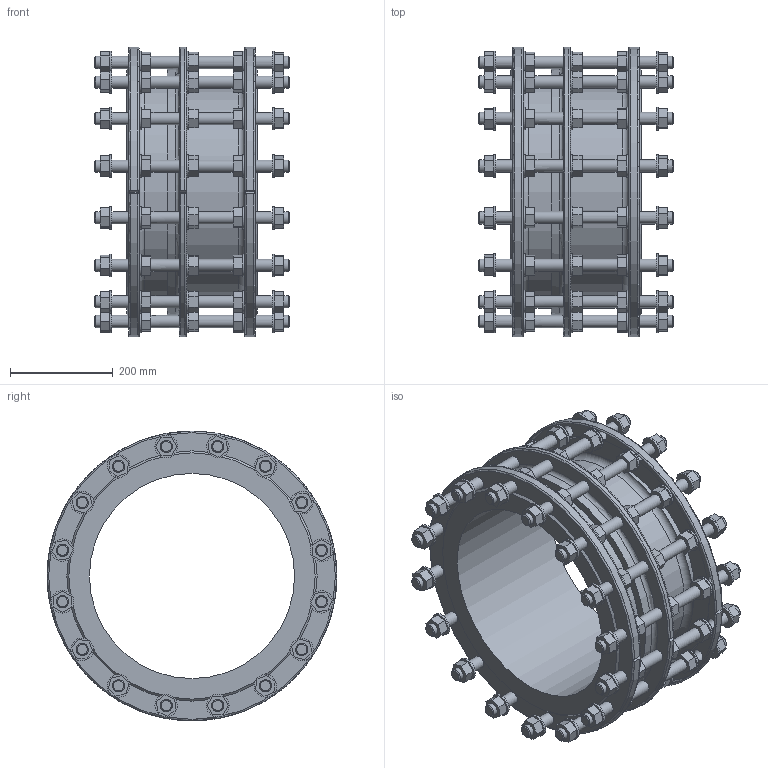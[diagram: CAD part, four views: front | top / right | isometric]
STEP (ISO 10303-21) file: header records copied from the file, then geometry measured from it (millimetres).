
FILE_DESCRIPTION (( 'STEP AP203' ), '1' );
FILE_NAME ('O_265_911_DN400_0XXXXX01_L=255_REV01.step', '2024-12-12T08:04:22', ( '' ), ( '' ), 'SwSTEP 2.0', 'SolidWorks 2022', '' );
FILE_SCHEMA (( 'CONFIG_CONTROL_DESIGN' ));
Length unit declared in the file: millimetre
Products named in the file (1): O_265_911_DN400_0XXXXX01_L=255_REV01
Bounding box: 380 x 564.97 x 565 mm (x, y, z)
Volume: 15375981.9 mm3; surface area: 1840645 mm2
Topology: 1 solids, 1 shells, 1002 faces, 2428 edges, 1599 vertices
Faces by surface type: plane 764, cylinder 187, cone 35, torus 16
Full cylindrical faces by diameter (mm): 24 x96, 44 x80, 400 x1, 416 x1, 448 x1
Entity records: 27848 total; most frequent: CARTESIAN_POINT 5368, DIRECTION 4553, ORIENTED_EDGE 4192, EDGE_CURVE 2096, VECTOR 1565, LINE 1565, AXIS2_PLACEMENT_3D 1494, VERTEX_POINT 1485
